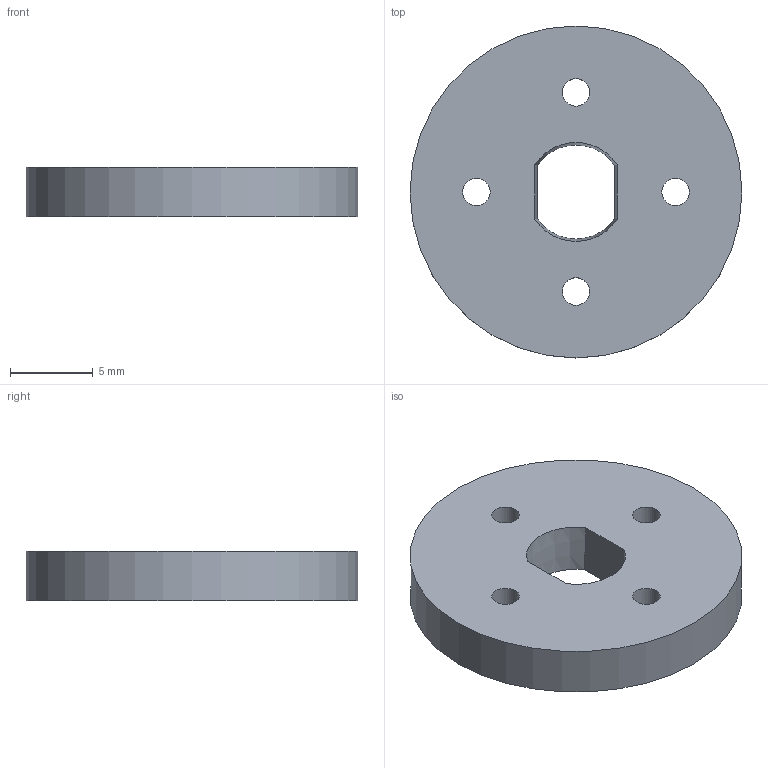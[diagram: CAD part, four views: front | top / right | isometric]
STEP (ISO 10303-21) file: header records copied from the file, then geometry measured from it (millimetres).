
FILE_DESCRIPTION(('Open CASCADE Model'),'2;1');
FILE_NAME('Open CASCADE Shape Model','2026-09-24T17:43:03',('Author'),( 'Open CASCADE'),'Open CASCADE STEP processor 7.8','Open CASCADE 7.8' ,'Unknown');
FILE_SCHEMA(('AUTOMOTIVE_DESIGN { 1 0 10303 214 1 1 1 1 }'));
Length unit declared in the file: millimetre
Products named in the file (1): Open CASCADE STEP translator 7.8 51
Bounding box: 20 x 20 x 3 mm (x, y, z)
Volume: 843.6 mm3; surface area: 867.1 mm2
Topology: 1 solids, 1 shells, 11 faces, 27 edges, 18 vertices
Faces by surface type: cylinder 5, plane 4, cone 2
Full cylindrical faces by diameter (mm): 1.66 x4, 20 x1
Entity records: 724 total; most frequent: CARTESIAN_POINT 147, DIRECTION 107, ORIENTED_EDGE 54, PCURVE 54, DEFINITIONAL_REPRESENTATION 54, LINE 33, VECTOR 33, AXIS2_PLACEMENT_3D 30
